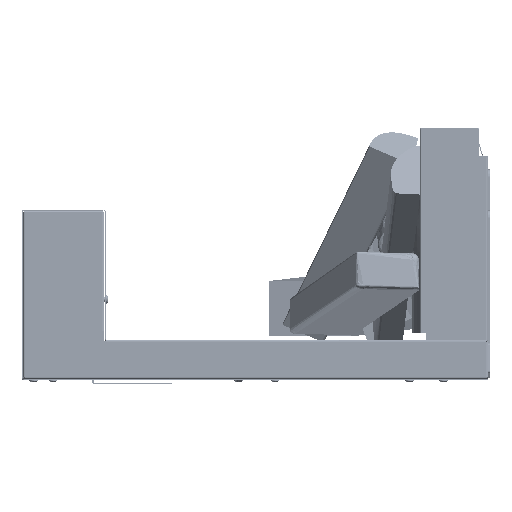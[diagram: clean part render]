
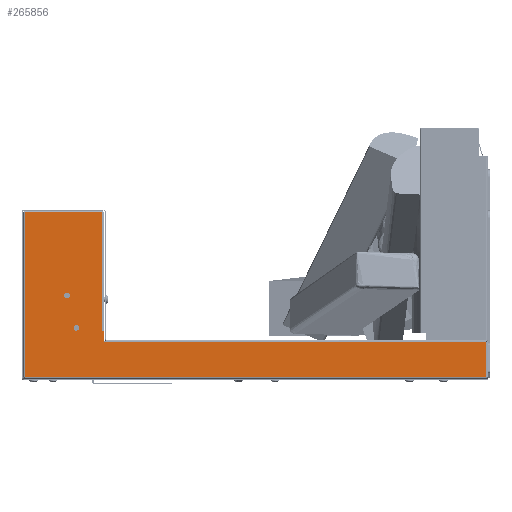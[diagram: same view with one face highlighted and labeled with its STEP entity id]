
A CAD part, left-side view. The second image highlights one B-rep face of the part: STEP entity #265856.
In plain terms, the highlighted planar face has unit normal (-1, 0, 0) as drawn and (1, 0, 0) by its records, which use the part's own axes.
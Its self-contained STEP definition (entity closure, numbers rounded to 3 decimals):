
#1307 = FACE_OUTER_BOUND ( 'NONE', #217892, .T. ) ;
#2664 = DIRECTION ( 'NONE',  ( -1., 0., 0. ) ) ;
#3398 = CARTESIAN_POINT ( 'NONE',  ( 0., 411.5, 0. ) ) ;
#3404 = CARTESIAN_POINT ( 'NONE',  ( 0., 499., -140. ) ) ;
#3416 = CARTESIAN_POINT ( 'NONE',  ( 0., 0., 0. ) ) ;
#3451 = VERTEX_POINT ( 'NONE', #222965 ) ;
#12944 = CARTESIAN_POINT ( 'NONE',  ( 0., 413., 0. ) ) ;
#16295 = AXIS2_PLACEMENT_3D ( 'NONE', #186021, #269579, #250364 ) ;
#16324 = CARTESIAN_POINT ( 'NONE',  ( 0., 413., -11.5 ) ) ;
#21847 = ORIENTED_EDGE ( 'NONE', *, *, #206133, .F. ) ;
#23000 = CARTESIAN_POINT ( 'NONE',  ( 0., 415., -12. ) ) ;
#25423 = LINE ( 'NONE', #87044, #191867 ) ;
#27092 = VERTEX_POINT ( 'NONE', #238822 ) ;
#28977 = DIRECTION ( 'NONE',  ( 0., -1., 0. ) ) ;
#32287 = EDGE_CURVE ( 'NONE', #51085, #62509, #134002, .T. ) ;
#35183 = VECTOR ( 'NONE', #178388, 1000. ) ;
#38885 = ORIENTED_EDGE ( 'NONE', *, *, #132393, .T. ) ;
#39375 = VERTEX_POINT ( 'NONE', #254655 ) ;
#46451 = VERTEX_POINT ( 'NONE', #116171 ) ;
#48343 = VERTEX_POINT ( 'NONE', #222598 ) ;
#48496 = ORIENTED_EDGE ( 'NONE', *, *, #32287, .F. ) ;
#49893 = LINE ( 'NONE', #3416, #89028 ) ;
#49987 = CARTESIAN_POINT ( 'NONE',  ( 0., 445.8, -15. ) ) ;
#51085 = VERTEX_POINT ( 'NONE', #49987 ) ;
#52205 = LINE ( 'NONE', #180815, #59502 ) ;
#52466 = LINE ( 'NONE', #93555, #35183 ) ;
#59502 = VECTOR ( 'NONE', #28977, 1000. ) ;
#60118 = CIRCLE ( 'NONE', #16295, 2.5 ) ;
#60671 = VECTOR ( 'NONE', #162533, 1000. ) ;
#62509 = VERTEX_POINT ( 'NONE', #95603 ) ;
#67750 = ORIENTED_EDGE ( 'NONE', *, *, #90760, .F. ) ;
#68922 = DIRECTION ( 'NONE',  ( 0., 1., 0. ) ) ;
#75885 = CARTESIAN_POINT ( 'NONE',  ( 0., 415.5, 0. ) ) ;
#78335 = DIRECTION ( 'NONE',  ( 1., 0., 0. ) ) ;
#78615 = CIRCLE ( 'NONE', #96200, 2.5 ) ;
#80929 = EDGE_CURVE ( 'NONE', #46451, #255851, #52466, .T. ) ;
#84841 = PLANE ( 'NONE',  #148046 ) ;
#85715 = VECTOR ( 'NONE', #68922, 1000. ) ;
#85978 = DIRECTION ( 'NONE',  ( 0., 0., -1. ) ) ;
#86930 = DIRECTION ( 'NONE',  ( 0., 0., -1. ) ) ;
#87044 = CARTESIAN_POINT ( 'NONE',  ( 0., 0., -11.5 ) ) ;
#88264 = CARTESIAN_POINT ( 'NONE',  ( 0., 453.3, -50. ) ) ;
#89028 = VECTOR ( 'NONE', #86930, 1000. ) ;
#90760 = EDGE_CURVE ( 'NONE', #256635, #220626, #222339, .T. ) ;
#91533 = ORIENTED_EDGE ( 'NONE', *, *, #95894, .T. ) ;
#92419 = ORIENTED_EDGE ( 'NONE', *, *, #80929, .T. ) ;
#93555 = CARTESIAN_POINT ( 'NONE',  ( 0., 413., -142. ) ) ;
#94282 = EDGE_CURVE ( 'NONE', #191926, #132783, #60118, .T. ) ;
#95603 = CARTESIAN_POINT ( 'NONE',  ( 0., 440.8, -15. ) ) ;
#95894 = EDGE_CURVE ( 'NONE', #209230, #39375, #183033, .T. ) ;
#96200 = AXIS2_PLACEMENT_3D ( 'NONE', #88264, #190919, #252563 ) ;
#98765 = EDGE_CURVE ( 'NONE', #132783, #191926, #78615, .T. ) ;
#99124 = DIRECTION ( 'NONE',  ( 0., 0., 1. ) ) ;
#104342 = AXIS2_PLACEMENT_3D ( 'NONE', #265915, #138677, #142692 ) ;
#105745 = EDGE_CURVE ( 'NONE', #62509, #51085, #270450, .T. ) ;
#107800 = AXIS2_PLACEMENT_3D ( 'NONE', #182356, #78335, #224793 ) ;
#110127 = CARTESIAN_POINT ( 'NONE',  ( 0., 414.707, -140. ) ) ;
#115280 = EDGE_CURVE ( 'NONE', #259436, #46451, #172924, .T. ) ;
#116171 = CARTESIAN_POINT ( 'NONE',  ( 0., 413., 0. ) ) ;
#116765 = CARTESIAN_POINT ( 'NONE',  ( 0., 455.8, -50. ) ) ;
#117445 = CARTESIAN_POINT ( 'NONE',  ( 0., 499., -140.293 ) ) ;
#118324 = ORIENTED_EDGE ( 'NONE', *, *, #252164, .F. ) ;
#127271 = FACE_BOUND ( 'NONE', #205748, .T. ) ;
#128696 = VECTOR ( 'NONE', #85978, 1000. ) ;
#132393 = EDGE_CURVE ( 'NONE', #3451, #209230, #253878, .T. ) ;
#132783 = VERTEX_POINT ( 'NONE', #226292 ) ;
#134002 = CIRCLE ( 'NONE', #107800, 2.5 ) ;
#138677 = DIRECTION ( 'NONE',  ( 1., 0., 0. ) ) ;
#140199 = LINE ( 'NONE', #75885, #247726 ) ;
#142692 = DIRECTION ( 'NONE',  ( 0., 1., 0. ) ) ;
#143429 = ORIENTED_EDGE ( 'NONE', *, *, #242527, .T. ) ;
#148046 = AXIS2_PLACEMENT_3D ( 'NONE', #190179, #2664, #253167 ) ;
#148727 = ORIENTED_EDGE ( 'NONE', *, *, #190037, .T. ) ;
#149011 = VECTOR ( 'NONE', #194949, 1000. ) ;
#149721 = CARTESIAN_POINT ( 'NONE',  ( 0., 413., 0. ) ) ;
#158026 = CARTESIAN_POINT ( 'NONE',  ( 0., 0., -12. ) ) ;
#162533 = DIRECTION ( 'NONE',  ( 0., 0., 1. ) ) ;
#165394 = EDGE_LOOP ( 'NONE', ( #48496, #194287 ) ) ;
#165753 = EDGE_CURVE ( 'NONE', #27092, #269910, #49893, .T. ) ;
#166442 = EDGE_CURVE ( 'NONE', #256635, #3451, #269485, .T. ) ;
#169712 = ORIENTED_EDGE ( 'NONE', *, *, #166442, .T. ) ;
#170525 = DIRECTION ( 'NONE',  ( 0., -1., 0. ) ) ;
#172924 = LINE ( 'NONE', #149721, #85715 ) ;
#176939 = CARTESIAN_POINT ( 'NONE',  ( 0., 415., -12. ) ) ;
#178388 = DIRECTION ( 'NONE',  ( 0., 0., -1. ) ) ;
#180815 = CARTESIAN_POINT ( 'NONE',  ( 0., 499.293, 38. ) ) ;
#182356 = CARTESIAN_POINT ( 'NONE',  ( 0., 443.3, -15. ) ) ;
#183033 = LINE ( 'NONE', #117445, #60671 ) ;
#186021 = CARTESIAN_POINT ( 'NONE',  ( 0., 453.3, -50. ) ) ;
#188843 = FACE_BOUND ( 'NONE', #165394, .T. ) ;
#188940 = CARTESIAN_POINT ( 'NONE',  ( 0., 0., 0. ) ) ;
#190037 = EDGE_CURVE ( 'NONE', #269910, #259436, #238886, .T. ) ;
#190179 = CARTESIAN_POINT ( 'NONE',  ( 0., 0., 0. ) ) ;
#190355 = CARTESIAN_POINT ( 'NONE',  ( 0., 415.5, -12. ) ) ;
#190919 = DIRECTION ( 'NONE',  ( 1., 0., 0. ) ) ;
#191867 = VECTOR ( 'NONE', #170525, 1000. ) ;
#191926 = VERTEX_POINT ( 'NONE', #116765 ) ;
#194287 = ORIENTED_EDGE ( 'NONE', *, *, #105745, .F. ) ;
#194949 = DIRECTION ( 'NONE',  ( 0., 1., 0. ) ) ;
#195322 = VECTOR ( 'NONE', #246918, 1000. ) ;
#197797 = DIRECTION ( 'NONE',  ( 0., 1., 0. ) ) ;
#200726 = ORIENTED_EDGE ( 'NONE', *, *, #165753, .T. ) ;
#201096 = VECTOR ( 'NONE', #197797, 1000. ) ;
#205748 = EDGE_LOOP ( 'NONE', ( #225532, #264020 ) ) ;
#206133 = EDGE_CURVE ( 'NONE', #48343, #255851, #25423, .T. ) ;
#209230 = VERTEX_POINT ( 'NONE', #3404 ) ;
#217892 = EDGE_LOOP ( 'NONE', ( #143429, #200726, #148727, #248464, #92419, #21847, #118324, #67750, #169712, #38885, #91533 ) ) ;
#220626 = VERTEX_POINT ( 'NONE', #190355 ) ;
#222339 = LINE ( 'NONE', #158026, #195322 ) ;
#222598 = CARTESIAN_POINT ( 'NONE',  ( 0., 415.5, -11.5 ) ) ;
#222965 = CARTESIAN_POINT ( 'NONE',  ( 0., 415., -140. ) ) ;
#224793 = DIRECTION ( 'NONE',  ( 0., 1., 0. ) ) ;
#225532 = ORIENTED_EDGE ( 'NONE', *, *, #94282, .F. ) ;
#226292 = CARTESIAN_POINT ( 'NONE',  ( 0., 450.8, -50. ) ) ;
#238822 = CARTESIAN_POINT ( 'NONE',  ( 0., 0., 38. ) ) ;
#238886 = LINE ( 'NONE', #12944, #201096 ) ;
#242527 = EDGE_CURVE ( 'NONE', #39375, #27092, #52205, .T. ) ;
#246918 = DIRECTION ( 'NONE',  ( 0., 1., 0. ) ) ;
#247726 = VECTOR ( 'NONE', #99124, 1000. ) ;
#248464 = ORIENTED_EDGE ( 'NONE', *, *, #115280, .T. ) ;
#250364 = DIRECTION ( 'NONE',  ( 0., 1., 0. ) ) ;
#252164 = EDGE_CURVE ( 'NONE', #220626, #48343, #140199, .T. ) ;
#252563 = DIRECTION ( 'NONE',  ( 0., 1., 0. ) ) ;
#253167 = DIRECTION ( 'NONE',  ( 0., 0., 1. ) ) ;
#253878 = LINE ( 'NONE', #110127, #149011 ) ;
#254655 = CARTESIAN_POINT ( 'NONE',  ( 0., 499., 38. ) ) ;
#255851 = VERTEX_POINT ( 'NONE', #16324 ) ;
#256635 = VERTEX_POINT ( 'NONE', #176939 ) ;
#259436 = VERTEX_POINT ( 'NONE', #3398 ) ;
#264020 = ORIENTED_EDGE ( 'NONE', *, *, #98765, .F. ) ;
#265856 = ADVANCED_FACE ( 'NONE', ( #127271, #188843, #1307 ), #84841, .F. ) ;
#265915 = CARTESIAN_POINT ( 'NONE',  ( 0., 443.3, -15. ) ) ;
#269485 = LINE ( 'NONE', #23000, #128696 ) ;
#269579 = DIRECTION ( 'NONE',  ( 1., 0., 0. ) ) ;
#269910 = VERTEX_POINT ( 'NONE', #188940 ) ;
#270450 = CIRCLE ( 'NONE', #104342, 2.5 ) ;
